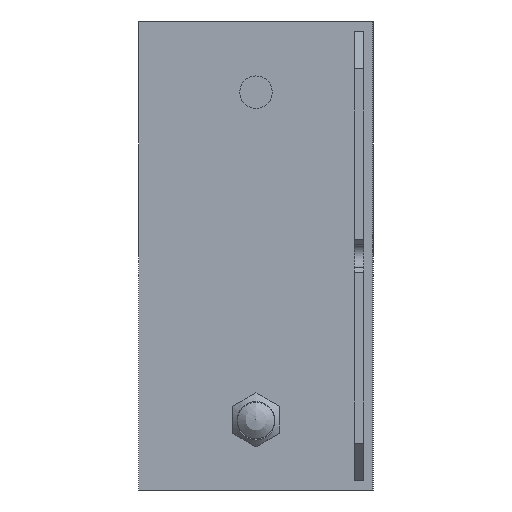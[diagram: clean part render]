
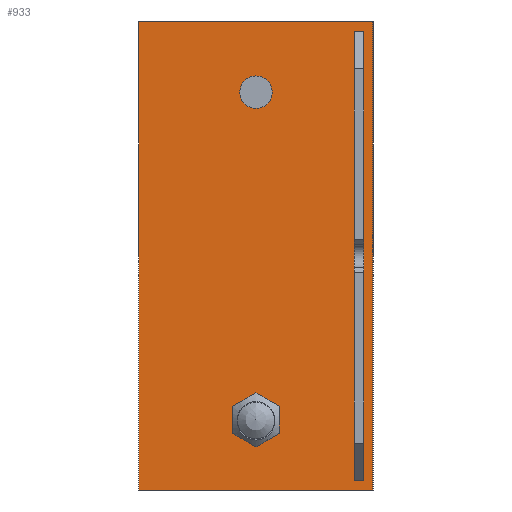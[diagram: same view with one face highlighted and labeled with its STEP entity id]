
A CAD part, left-side view. The second image highlights one B-rep face of the part: STEP entity #933.
In plain terms, the highlighted planar face has unit normal (-1, 0, 0).
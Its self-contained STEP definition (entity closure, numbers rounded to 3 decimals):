
#15=FACE_BOUND('',#375,.T.);
#16=FACE_BOUND('',#376,.T.);
#17=FACE_BOUND('',#377,.T.);
#63=PLANE('',#1024);
#130=LINE('',#1509,#231);
#150=LINE('',#1550,#251);
#151=LINE('',#1553,#252);
#154=LINE('',#1558,#255);
#167=LINE('',#1587,#268);
#168=LINE('',#1590,#269);
#169=LINE('',#1592,#270);
#170=LINE('',#1593,#271);
#231=VECTOR('',#1176,10.);
#251=VECTOR('',#1216,10.);
#252=VECTOR('',#1219,10.);
#255=VECTOR('',#1226,10.);
#268=VECTOR('',#1255,10.);
#269=VECTOR('',#1258,10.);
#270=VECTOR('',#1259,10.);
#271=VECTOR('',#1260,10.);
#323=FACE_OUTER_BOUND('',#374,.T.);
#374=EDGE_LOOP('',(#853,#854,#855,#856));
#375=EDGE_LOOP('',(#857,#858));
#376=EDGE_LOOP('',(#859,#860));
#377=EDGE_LOOP('',(#861,#862,#863,#864));
#394=CIRCLE('',#985,5.);
#395=CIRCLE('',#986,5.);
#398=CIRCLE('',#990,3.464);
#399=CIRCLE('',#991,3.464);
#430=VERTEX_POINT('',#1417);
#431=VERTEX_POINT('',#1419);
#434=VERTEX_POINT('',#1427);
#435=VERTEX_POINT('',#1429);
#466=VERTEX_POINT('',#1506);
#467=VERTEX_POINT('',#1508);
#478=VERTEX_POINT('',#1548);
#479=VERTEX_POINT('',#1552);
#484=VERTEX_POINT('',#1580);
#487=VERTEX_POINT('',#1585);
#488=VERTEX_POINT('',#1589);
#489=VERTEX_POINT('',#1591);
#532=EDGE_CURVE('',#431,#430,#394,.T.);
#533=EDGE_CURVE('',#430,#431,#395,.T.);
#537=EDGE_CURVE('',#435,#434,#398,.T.);
#538=EDGE_CURVE('',#434,#435,#399,.T.);
#575=EDGE_CURVE('',#467,#466,#130,.T.);
#596=EDGE_CURVE('',#466,#478,#150,.T.);
#597=EDGE_CURVE('',#479,#467,#151,.T.);
#600=EDGE_CURVE('',#478,#479,#154,.T.);
#614=EDGE_CURVE('',#484,#487,#167,.T.);
#615=EDGE_CURVE('',#488,#484,#168,.T.);
#616=EDGE_CURVE('',#489,#487,#169,.T.);
#617=EDGE_CURVE('',#488,#489,#170,.T.);
#853=ORIENTED_EDGE('',*,*,#615,.T.);
#854=ORIENTED_EDGE('',*,*,#614,.T.);
#855=ORIENTED_EDGE('',*,*,#616,.F.);
#856=ORIENTED_EDGE('',*,*,#617,.F.);
#857=ORIENTED_EDGE('',*,*,#532,.T.);
#858=ORIENTED_EDGE('',*,*,#533,.T.);
#859=ORIENTED_EDGE('',*,*,#537,.T.);
#860=ORIENTED_EDGE('',*,*,#538,.T.);
#861=ORIENTED_EDGE('',*,*,#597,.T.);
#862=ORIENTED_EDGE('',*,*,#575,.T.);
#863=ORIENTED_EDGE('',*,*,#596,.T.);
#864=ORIENTED_EDGE('',*,*,#600,.T.);
#933=ADVANCED_FACE('',(#323,#15,#16,#17),#63,.T.);
#985=AXIS2_PLACEMENT_3D('',#1420,#1105,#1106);
#986=AXIS2_PLACEMENT_3D('',#1421,#1107,#1108);
#990=AXIS2_PLACEMENT_3D('',#1430,#1116,#1117);
#991=AXIS2_PLACEMENT_3D('',#1431,#1118,#1119);
#1024=AXIS2_PLACEMENT_3D('',#1588,#1256,#1257);
#1105=DIRECTION('center_axis',(1.,0.,0.));
#1106=DIRECTION('ref_axis',(0.,0.,1.));
#1107=DIRECTION('center_axis',(1.,0.,0.));
#1108=DIRECTION('ref_axis',(0.,0.,1.));
#1116=DIRECTION('center_axis',(1.,0.,0.));
#1117=DIRECTION('ref_axis',(0.,0.,1.));
#1118=DIRECTION('center_axis',(1.,0.,0.));
#1119=DIRECTION('ref_axis',(0.,0.,1.));
#1176=DIRECTION('',(0.,0.,-1.));
#1216=DIRECTION('',(0.,1.,0.));
#1219=DIRECTION('',(0.,-1.,0.));
#1226=DIRECTION('',(0.,0.,1.));
#1255=DIRECTION('',(0.,1.,0.));
#1256=DIRECTION('center_axis',(-1.,0.,0.));
#1257=DIRECTION('ref_axis',(0.,0.,1.));
#1258=DIRECTION('',(0.,0.,1.));
#1259=DIRECTION('',(0.,0.,1.));
#1260=DIRECTION('',(0.,1.,0.));
#1417=CARTESIAN_POINT('',(-140.,25.,-40.));
#1419=CARTESIAN_POINT('',(-140.,25.,-30.));
#1420=CARTESIAN_POINT('Origin',(-140.,25.,-35.));
#1421=CARTESIAN_POINT('Origin',(-140.,25.,-35.));
#1427=CARTESIAN_POINT('',(-140.,25.,31.536));
#1429=CARTESIAN_POINT('',(-140.,25.,38.464));
#1430=CARTESIAN_POINT('Origin',(-140.,25.,35.));
#1431=CARTESIAN_POINT('Origin',(-140.,25.,35.));
#1506=CARTESIAN_POINT('',(-140.,2.,-48.));
#1508=CARTESIAN_POINT('',(-140.,2.,48.));
#1509=CARTESIAN_POINT('',(-140.,2.,-25.));
#1548=CARTESIAN_POINT('',(-140.,4.,-48.));
#1550=CARTESIAN_POINT('',(-140.,1.,-48.));
#1552=CARTESIAN_POINT('',(-140.,4.,48.));
#1553=CARTESIAN_POINT('',(-140.,1.,48.));
#1558=CARTESIAN_POINT('',(-140.,4.,-25.));
#1580=CARTESIAN_POINT('',(-140.,0.,50.));
#1585=CARTESIAN_POINT('',(-140.,50.,50.));
#1587=CARTESIAN_POINT('',(-140.,0.,50.));
#1588=CARTESIAN_POINT('Origin',(-140.,0.,-50.));
#1589=CARTESIAN_POINT('',(-140.,0.,-50.));
#1590=CARTESIAN_POINT('',(-140.,0.,-50.));
#1591=CARTESIAN_POINT('',(-140.,50.,-50.));
#1592=CARTESIAN_POINT('',(-140.,50.,-50.));
#1593=CARTESIAN_POINT('',(-140.,0.,-50.));
